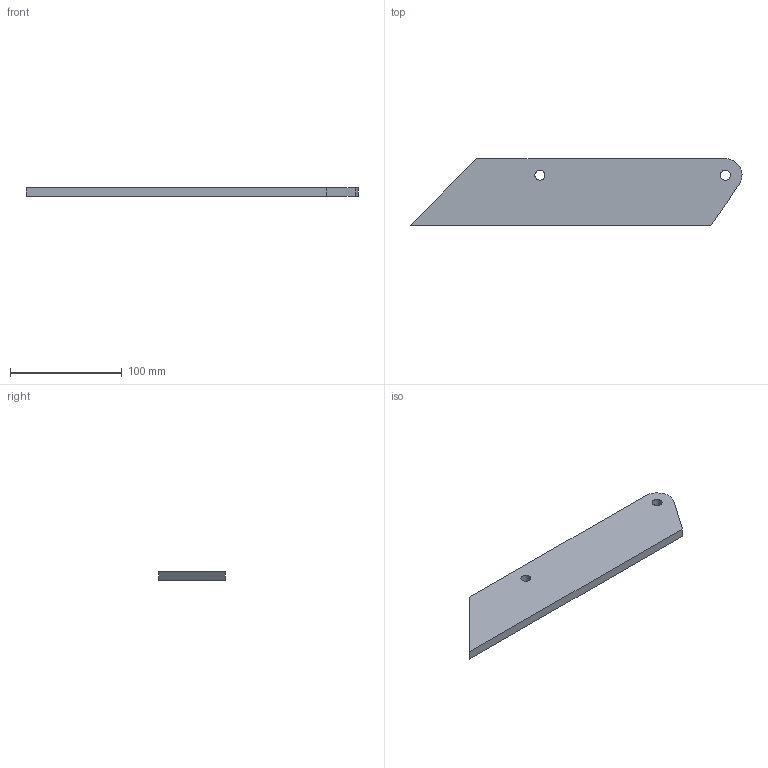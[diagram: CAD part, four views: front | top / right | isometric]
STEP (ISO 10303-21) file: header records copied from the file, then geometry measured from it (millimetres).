
FILE_DESCRIPTION(/* description */ (''),/* implementation_level */ '2;1');
FILE_NAME(/* name */ 'Pos139-Plaatwerk D= 8-S235JRG2-3st',/* time_stamp */ '2024-08-06T13:37:44+02:00',/* author */ (''),/* organization */ (''),/* preprocessor_version */ 'ST-DEVELOPER v16.5',/* originating_system */ 'HiCAD 2024 2901.2 Build 361',/* authorisation */ '');
FILE_SCHEMA (('AUTOMOTIVE_DESIGN { 1 0 10303 214 1 1 1 1 }'));
Length unit declared in the file: millimetre
Products named in the file (1): Pos139-Plaatwerk D= 8-S235JRG2-3st
Bounding box: 297.66 x 60 x 8 mm (x, y, z)
Volume: 122561.9 mm3; surface area: 36327.2 mm2
Topology: 1 solids, 1 shells, 9 faces, 23 edges, 16 vertices
Faces by surface type: plane 6, cylinder 3
Full cylindrical faces by diameter (mm): 9 x2
Entity records: 467 total; most frequent: DIRECTION 43, CARTESIAN_POINT 42, PRESENTATION_STYLE_ASSIGNMENT 39, COLOUR_RGB 39, DRAUGHTING_PRE_DEFINED_CURVE_FONT 38, CURVE_STYLE 38, OVER_RIDING_STYLED_ITEM 38, ORIENTED_EDGE 38
